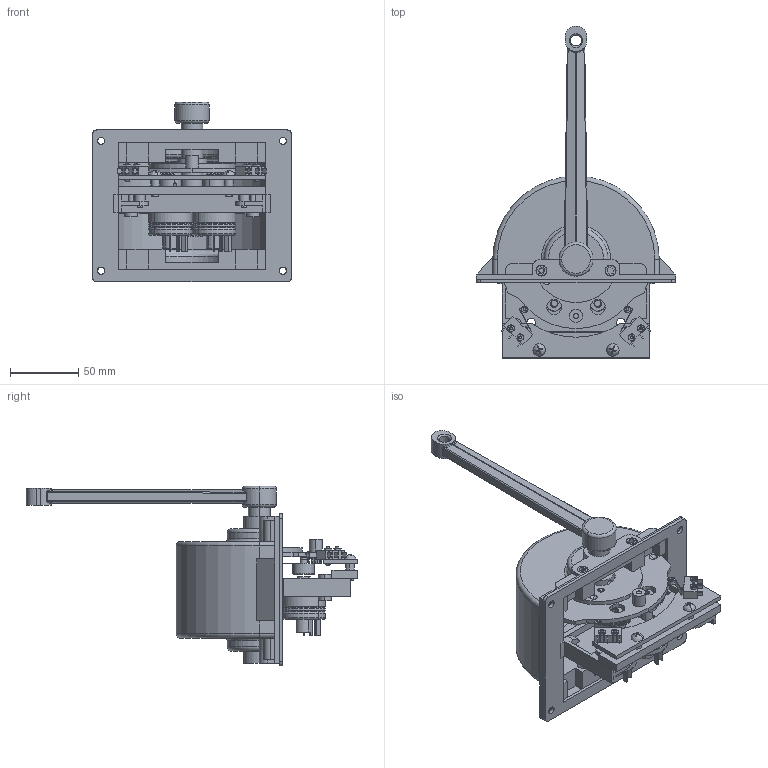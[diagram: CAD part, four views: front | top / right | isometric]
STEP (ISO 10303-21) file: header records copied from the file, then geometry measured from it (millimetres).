
FILE_DESCRIPTION (( 'STEP AP214' ), '1' );
FILE_NAME ('6523-HD.STEP', '2020-08-14T17:29:55', ( '' ), ( '' ), 'SwSTEP 2.0', 'SolidWorks 2019', '' );
FILE_SCHEMA (( 'AUTOMOTIVE_DESIGN' ));
Length unit declared in the file: inch
Products named in the file (2): 6523-HD
Bounding box: 146.05 x 243.41 x 131.72 mm (x, y, z)
Surface area: 172359 mm2 (no closed solid volume)
Topology: 0 solids, 63 shells, 759 faces, 3284 edges, 2539 vertices
Faces by surface type: plane 384, cylinder 229, cone 57, bspline 48, torus 39, sphere 2
Entity records: 51245 total; most frequent: CARTESIAN_POINT 15161, DIRECTION 5410, ORIENTED_EDGE 4862, EDGE_CURVE 3282, VERTEX_POINT 2539, AXIS2_PLACEMENT_3D 1988, VECTOR 1434, LINE 1434
